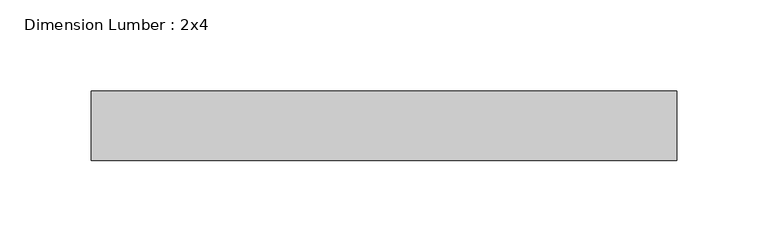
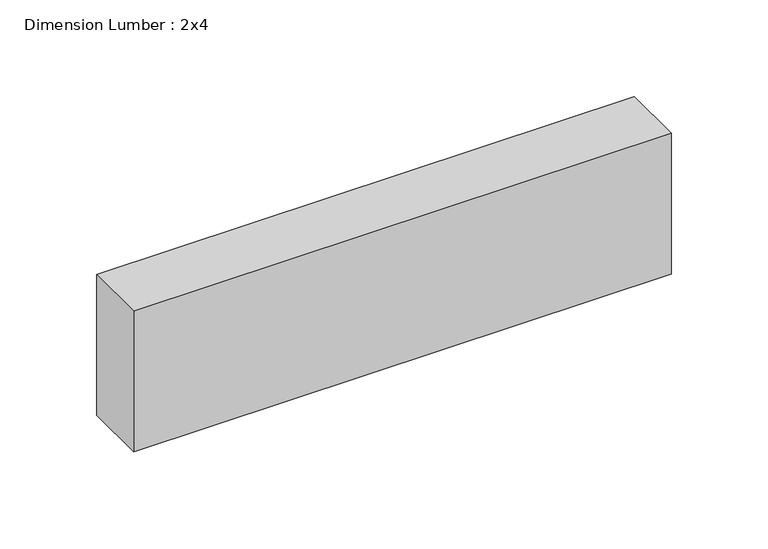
"""IFC4 building model written with IfcOpenShell, lengths in millimetres: beam geometry, Dimension Lumber : 2x4."""

from ifc_helpers import new_model, si_unit, frame, origin, place, context, project, spatial, polyline, outline, extrude, source, transform, mapped, element, save


def dimension_lumber_2x4_c7d00fd0(model_context):
    return source(origin(), model_context, "Body", "SweptSolid", [
        extrude(outline(polyline([(160.3375, 19.05), (160.3375, -19.05), (-160.3375, -19.05), (-160.3375, 19.05), (160.3375, 19.05)])), frame((0.0, 0.0, -44.45), z_axis=(0.0, 0.0, 1.0), x_axis=(1.0, 0.0, 0.0)), (0.0, 0.0, 1.0), 88.9),
    ])


if __name__ == "__main__":
    model = new_model("IFC4")
    model_context = context("Model", 3, world=origin())
    ifc_project = project(units=[si_unit("LENGTHUNIT", "METRE", prefix="MILLI")], contexts=[model_context])
    site = spatial("IfcSite", under=ifc_project)
    building = spatial("IfcBuilding", under=site)
    placement = place(None, origin())
    dimension_lumber_2x4_shape = dimension_lumber_2x4_c7d00fd0(model_context)
    element("IfcBeam", 1, ObjectType="Dimension Lumber : 2x4", at=placement, inside=building, context=model_context, shape_type="MappedRepresentation", body=[
        mapped(dimension_lumber_2x4_shape, transform((0.0, 0.0, 0.0), x_axis=(1.0, 0.0, 0.0), y_axis=(0.0, 1.0, 0.0), z_axis=(0.0, 0.0, 1.0))),
    ])
    save(model, "model.ifc")
